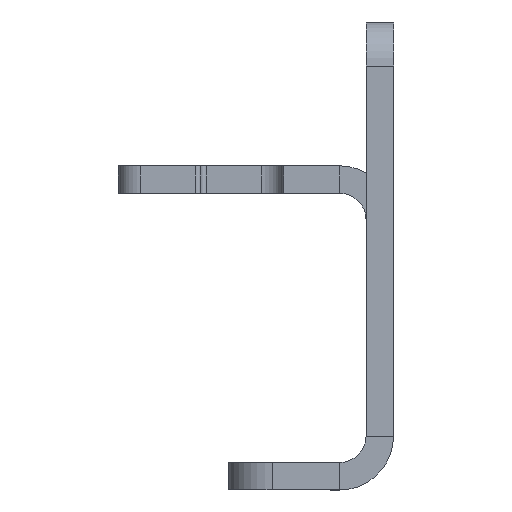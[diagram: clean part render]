
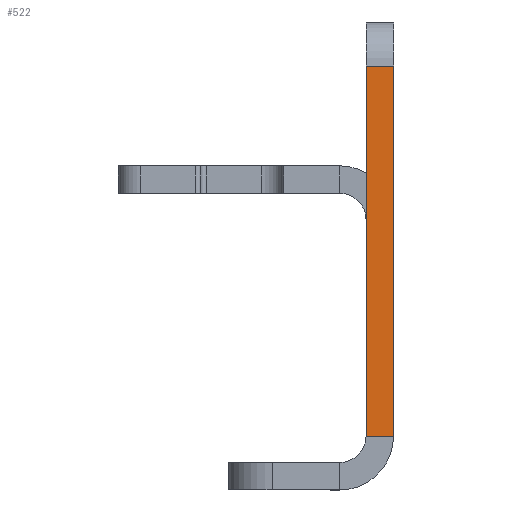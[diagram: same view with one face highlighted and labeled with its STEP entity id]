
A CAD part, left-side view. The second image highlights one B-rep face of the part: STEP entity #522.
In plain terms, the highlighted planar face has unit normal (-1, 0, 0).
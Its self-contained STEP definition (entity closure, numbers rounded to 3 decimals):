
#77 = VECTOR ( 'NONE', #3755, 1000. ) ;
#78 = VECTOR ( 'NONE', #3759, 1000. ) ;
#80 = VECTOR ( 'NONE', #3763, 1000. ) ;
#522 = ADVANCED_FACE ( 'NONE', ( #2510 ), #3899, .T. ) ;
#768 = EDGE_CURVE ( 'NONE', #2325, #2137, #3765, .T. ) ;
#769 = EDGE_CURVE ( 'NONE', #2325, #2370, #3762, .T. ) ;
#770 = EDGE_CURVE ( 'NONE', #2137, #2369, #3757, .T. ) ;
#1068 = EDGE_CURVE ( 'NONE', #2370, #2369, #2666, .T. ) ;
#1897 = ORIENTED_EDGE ( 'NONE', *, *, #769, .F. ) ;
#1898 = ORIENTED_EDGE ( 'NONE', *, *, #770, .T. ) ;
#1899 = ORIENTED_EDGE ( 'NONE', *, *, #768, .T. ) ;
#1900 = ORIENTED_EDGE ( 'NONE', *, *, #1068, .F. ) ;
#2137 = VERTEX_POINT ( 'NONE', #5999 ) ;
#2325 = VERTEX_POINT ( 'NONE', #5684 ) ;
#2369 = VERTEX_POINT ( 'NONE', #5616 ) ;
#2370 = VERTEX_POINT ( 'NONE', #5615 ) ;
#2506 = AXIS2_PLACEMENT_3D ( 'NONE', #3894, #3891, #3890 ) ;
#2510 = FACE_OUTER_BOUND ( 'NONE', #4409, .T. ) ;
#2662 = DIRECTION ( 'NONE',  ( 0., 0., 1. ) ) ;
#2664 = CARTESIAN_POINT ( 'NONE',  ( -136.25, 0., 4. ) ) ;
#2666 = LINE ( 'NONE', #2664, #4848 ) ;
#3755 = DIRECTION ( 'NONE',  ( 0., 1., 0. ) ) ;
#3756 = CARTESIAN_POINT ( 'NONE',  ( -136.25, -2.5, 49.1 ) ) ;
#3757 = LINE ( 'NONE', #3756, #77 ) ;
#3759 = DIRECTION ( 'NONE',  ( 0., 1., 0. ) ) ;
#3761 = CARTESIAN_POINT ( 'NONE',  ( -136.25, -2.5, 15.47 ) ) ;
#3762 = LINE ( 'NONE', #3761, #78 ) ;
#3763 = DIRECTION ( 'NONE',  ( 0., 0., 1. ) ) ;
#3764 = CARTESIAN_POINT ( 'NONE',  ( -136.25, -2.5, 4. ) ) ;
#3765 = LINE ( 'NONE', #3764, #80 ) ;
#3890 = DIRECTION ( 'NONE',  ( 0., 0., 1. ) ) ;
#3891 = DIRECTION ( 'NONE',  ( -1., 0., 0. ) ) ;
#3894 = CARTESIAN_POINT ( 'NONE',  ( -136.25, -2.5, 4. ) ) ;
#3899 = PLANE ( 'NONE',  #2506 ) ;
#4409 = EDGE_LOOP ( 'NONE', ( #1897, #1899, #1898, #1900 ) ) ;
#4848 = VECTOR ( 'NONE', #2662, 1000. ) ;
#5615 = CARTESIAN_POINT ( 'NONE',  ( -136.25, 0., 15.47 ) ) ;
#5616 = CARTESIAN_POINT ( 'NONE',  ( -136.25, 0., 49.1 ) ) ;
#5684 = CARTESIAN_POINT ( 'NONE',  ( -136.25, -2.5, 15.47 ) ) ;
#5999 = CARTESIAN_POINT ( 'NONE',  ( -136.25, -2.5, 49.1 ) ) ;
